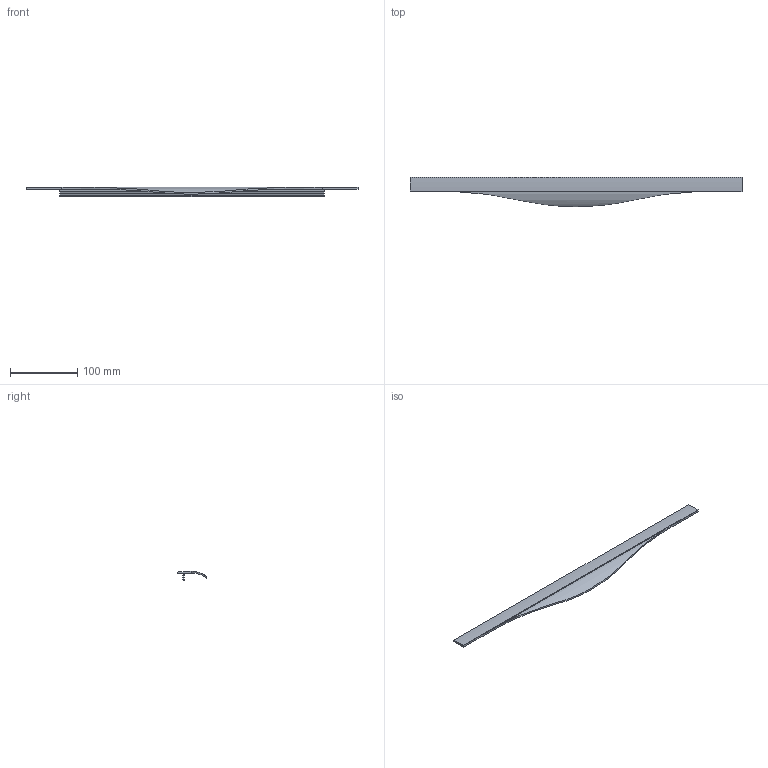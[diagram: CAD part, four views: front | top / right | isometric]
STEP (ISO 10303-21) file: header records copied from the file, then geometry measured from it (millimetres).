
FILE_DESCRIPTION( ( 'STEP AP214' ), '1' );
FILE_NAME( 'C:/Users/swati/Desktop/04-03-2016/9210058/9210058.stp', ' ', ( ' ' ), ( ' ' ), 'PSStep 15.0.47', 'PARTsolutions', ' ' );
FILE_SCHEMA( ( 'AUTOMOTIVE_DESIGN { 1 0 10303 214 1 1 1 1 }' ) );
Length unit declared in the file: millimetre
Products named in the file (2): 95 ; _
Assembly tree (1 placements, depth 2):
  95 
    _
Bounding box: 495 x 43.67 x 14 mm (x, y, z)
Volume: 47302.5 mm3; surface area: 42887.2 mm2
Topology: 1 solids, 1 shells, 32 faces, 87 edges, 58 vertices
Faces by surface type: plane 25, cylinder 7
Entity records: 1353 total; most frequent: CARTESIAN_POINT 257, ORIENTED_EDGE 174, DIRECTION 153, EDGE_CURVE 87, LINE 73, VECTOR 73, VERTEX_POINT 58, AXIS2_PLACEMENT_3D 40
